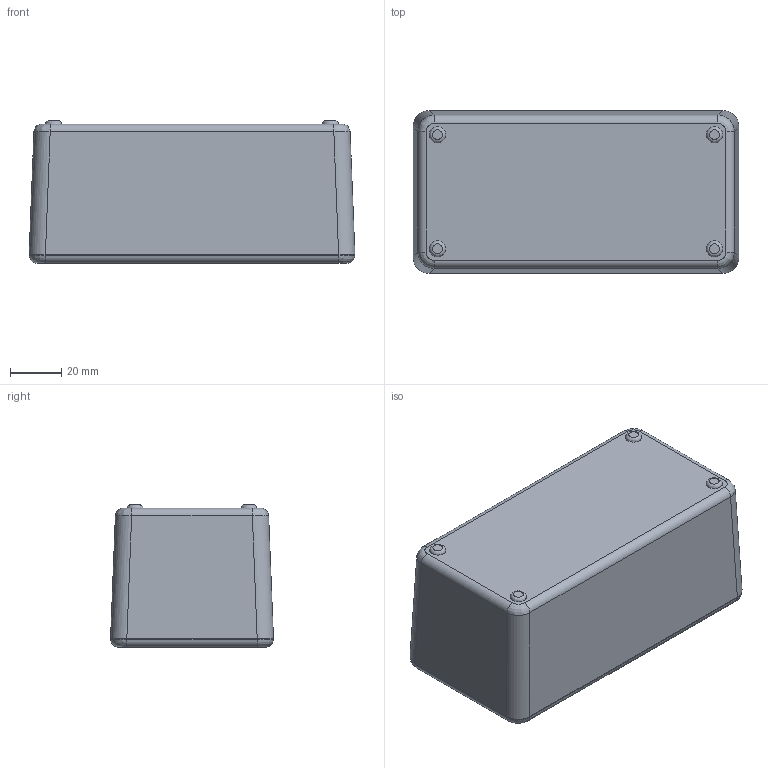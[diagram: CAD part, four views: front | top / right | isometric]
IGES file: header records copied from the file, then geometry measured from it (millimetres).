
Global section: file name: No Iges File Name specified; native system: AutoDesk Inventor R6.0; preprocessor: AutoDesk Inventor Iges Exporter R6.0; author: No Author specified; organization: No Organization specified; date: 20080103.173628; units: inch
Bounding box: 127 x 63.5 x 55.5 mm (x, y, z)
Surface area: 76712.1 mm2 (no closed solid volume)
Topology: 0 solids, 0 shells, 247 faces, 1212 edges, 1180 vertices
Faces by surface type: plane 105, bspline 92, revolution 50
